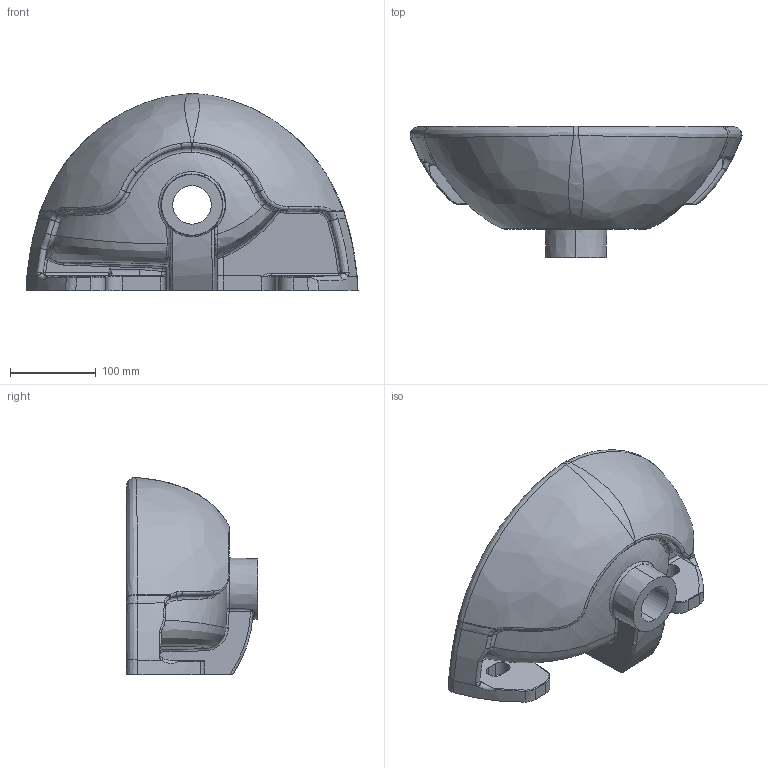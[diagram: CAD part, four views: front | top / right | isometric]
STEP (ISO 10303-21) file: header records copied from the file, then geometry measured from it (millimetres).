
FILE_DESCRIPTION (( 'STEP AP203' ), '1' );
FILE_NAME ('tp040.STEP', '2022-04-28T07:51:00', ( '' ), ( '' ), 'SwSTEP 2.0', 'SolidWorks 2021', '' );
FILE_SCHEMA (( 'CONFIG_CONTROL_DESIGN' ));
Length unit declared in the file: millimetre
Products named in the file (1): tp040
Bounding box: 387.68 x 153 x 230.05 mm (x, y, z)
Volume: 2659873.7 mm3; surface area: 303620.2 mm2
Topology: 1 solids, 2 shells, 281 faces, 716 edges, 423 vertices
Faces by surface type: bspline 183, cylinder 44, plane 39, sphere 6, torus 5, cone 4
Entity records: 38750 total; most frequent: CARTESIAN_POINT 33459, ORIENTED_EDGE 1410, EDGE_CURVE 705, DIRECTION 645, VERTEX_POINT 423, B_SPLINE_CURVE_WITH_KNOTS 367, EDGE_LOOP 290, FACE_OUTER_BOUND 281
